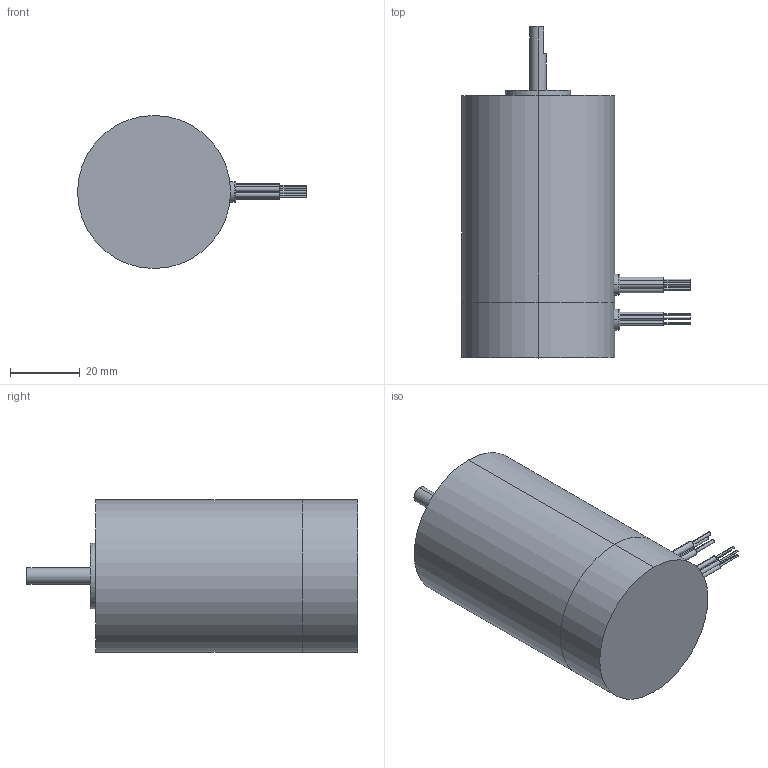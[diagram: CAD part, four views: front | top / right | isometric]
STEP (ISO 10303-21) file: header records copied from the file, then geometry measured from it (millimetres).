
FILE_DESCRIPTION (( 'STEP AP203' ), '1' );
FILE_NAME ('bl44297.step', '2021-01-25T17:52:03', ( '' ), ( '' ), 'SwSTEP 2.0', 'SolidWorks 2017', '' );
FILE_SCHEMA (( 'CONFIG_CONTROL_DESIGN' ));
Length unit declared in the file: millimetre
Products named in the file (1): bl44297
Bounding box: 65.82 x 95.44 x 44 mm (x, y, z)
Volume: 116376.8 mm3; surface area: 18997.8 mm2
Topology: 7 solids, 7 shells, 104 faces, 205 edges, 128 vertices
Faces by surface type: cylinder 56, plane 33, cone 11, torus 4
Entity records: 2733 total; most frequent: DIRECTION 530, CARTESIAN_POINT 436, ORIENTED_EDGE 394, AXIS2_PLACEMENT_3D 230, EDGE_CURVE 197, VERTEX_POINT 128, EDGE_LOOP 125, CIRCLE 125
